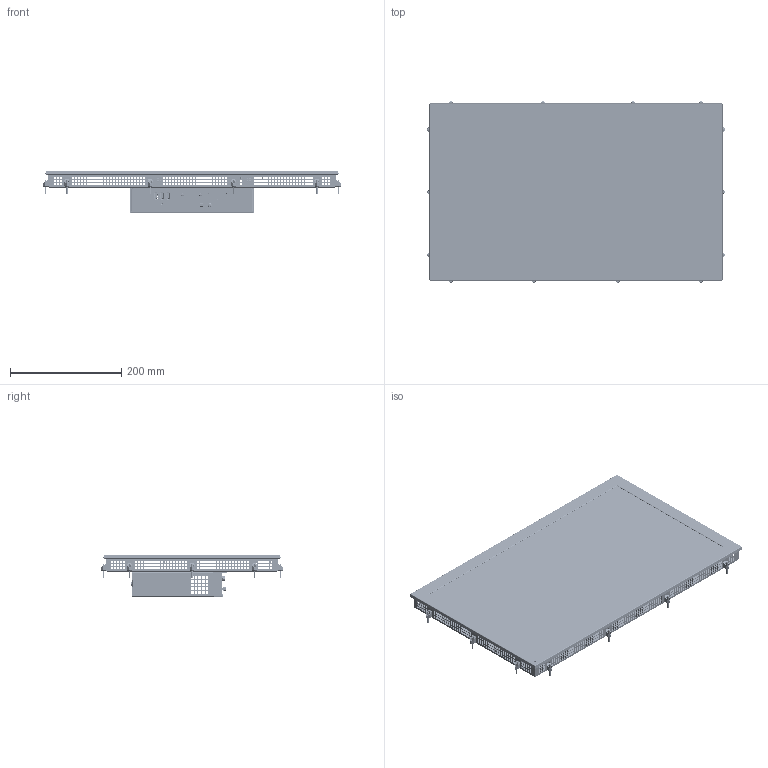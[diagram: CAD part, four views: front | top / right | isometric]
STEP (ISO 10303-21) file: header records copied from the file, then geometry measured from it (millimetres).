
FILE_DESCRIPTION (( 'STEP AP214' ), '1' );
FILE_NAME ('MQ200_215_ALU_DEPOPOLATA.STEP', '2021-11-02T07:30:20', ( '' ), ( '' ), 'SwSTEP 2.0', 'SolidWorks 2021', '' );
FILE_SCHEMA (( 'AUTOMOTIVE_DESIGN' ));
Length unit declared in the file: millimetre
Products named in the file (34): 56636914_Default<A macchina>; 56572011; 23330027; 69111028; 62920011; 51703013_Default<A macchina>; D09201902_12-24; 62920005; foot4049_1270000; 21409042; 21410039; 59703008; 62920001; 20900019; 56600604; 14300032; GRUPPO VITE TERRA M4; 59303029; 21405042; 7397_213_DEPOPOLATA; MQ200_215_ALU_DEPOPOLATA; 65720062; 21614000; 54900001; 21402041; 69111020; 62013046; 61820001; 54900004; GRUPPO FRONTALE 215 MQ ALU ALLEN BRADLEY; 56506010_2^D09201902; 48000059; 7397_369_DEPOPOLATA; 69111025
Assembly tree (72 placements, depth 4):
  MQ200_215_ALU_DEPOPOLATA
    GRUPPO FRONTALE 215 MQ ALU ALLEN BRADLEY
      56600604
        56636914_Default<A macchina>
      48000059
    59303029
    69111028  x13
    54900004  x14
      54900001
      61820001
      62013046
    D09201902_12-24
      7397_369_DEPOPOLATA
        23330027  x4
        21405042
        21409042
        foot4049_1270000
        21410039  x3
      7397_213_DEPOPOLATA
        21402041
      14300032
      59703008
      21614000  x2
      69111020  x8
      GRUPPO VITE TERRA M4
        65720062
        62920011
        62920001
        62920005
        20900019
      69111025
      56572011
      51703013_Default<A macchina>
      56506010_2^D09201902  x2
Bounding box: 537.2 x 328.6 x 75.71 mm (x, y, z)
Topology: 250 solids, 278 shells, 17498 faces, 48506 edges, 31756 vertices
Faces by surface type: plane 12843, cylinder 3477, cone 734, bspline 384, torus 56, sphere 4
Entity records: 412226 total; most frequent: CARTESIAN_POINT 81410, ORIENTED_EDGE 67999, DIRECTION 60628, EDGE_CURVE 34219, VECTOR 29328, LINE 29328, VERTEX_POINT 22499, AXIS2_PLACEMENT_3D 15650
